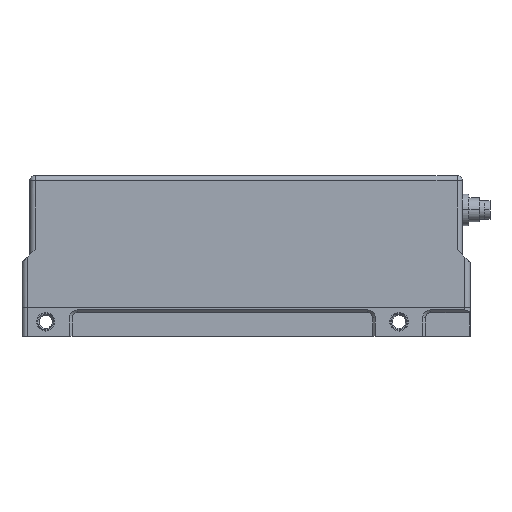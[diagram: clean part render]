
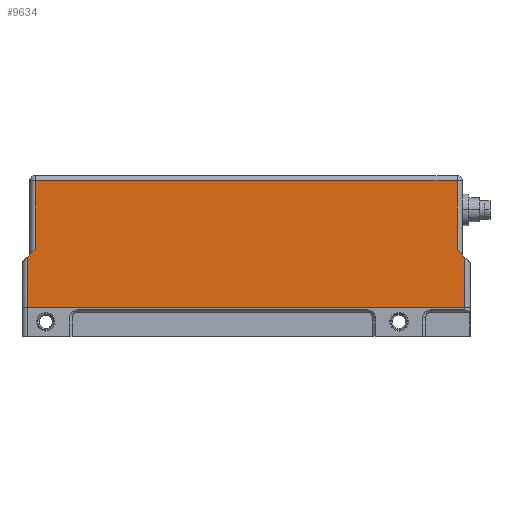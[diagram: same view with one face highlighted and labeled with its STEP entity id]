
A CAD part, top view. The second image highlights one B-rep face of the part: STEP entity #9634.
In plain terms, the highlighted planar face has unit normal (0, 0, 1).
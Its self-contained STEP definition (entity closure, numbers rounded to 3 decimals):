
#696 = LINE ( 'NONE', #10507, #698 ) ;
#698 = VECTOR ( 'NONE', #10513, 1000. ) ;
#829 = LINE ( 'NONE', #10685, #832 ) ;
#831 = LINE ( 'NONE', #10687, #833 ) ;
#832 = VECTOR ( 'NONE', #10686, 1000. ) ;
#833 = VECTOR ( 'NONE', #10688, 1000. ) ;
#840 = LINE ( 'NONE', #10716, #842 ) ;
#842 = VECTOR ( 'NONE', #10717, 1000. ) ;
#1562 = FACE_OUTER_BOUND ( 'NONE', #12535, .T. ) ;
#1940 = VERTEX_POINT ( 'NONE', #4072 ) ;
#1960 = VERTEX_POINT ( 'NONE', #4092 ) ;
#2030 = VERTEX_POINT ( 'NONE', #4162 ) ;
#2103 = VERTEX_POINT ( 'NONE', #4267 ) ;
#2160 = AXIS2_PLACEMENT_3D ( 'NONE', #5788, #5797, #5798 ) ;
#4072 = CARTESIAN_POINT ( 'NONE',  ( -2., 0., 0. ) ) ;
#4092 = CARTESIAN_POINT ( 'NONE',  ( -168., 19., 0. ) ) ;
#4162 = CARTESIAN_POINT ( 'NONE',  ( -165., 48., 0. ) ) ;
#4267 = CARTESIAN_POINT ( 'NONE',  ( -5., 48., 0. ) ) ;
#4756 = ORIENTED_EDGE ( 'NONE', *, *, #9145, .T. ) ;
#4758 = ORIENTED_EDGE ( 'NONE', *, *, #9135, .F. ) ;
#4759 = ORIENTED_EDGE ( 'NONE', *, *, #9136, .T. ) ;
#4760 = ORIENTED_EDGE ( 'NONE', *, *, #9874, .T. ) ;
#4762 = ORIENTED_EDGE ( 'NONE', *, *, #9873, .F. ) ;
#4763 = ORIENTED_EDGE ( 'NONE', *, *, #9058, .T. ) ;
#4779 = ORIENTED_EDGE ( 'NONE', *, *, #9872, .T. ) ;
#4791 = ORIENTED_EDGE ( 'NONE', *, *, #9871, .T. ) ;
#5103 = CARTESIAN_POINT ( 'NONE',  ( -165., 22., 0. ) ) ;
#5148 = CARTESIAN_POINT ( 'NONE',  ( -5., 22., 0. ) ) ;
#5234 = CARTESIAN_POINT ( 'NONE',  ( -2., 19., 0. ) ) ;
#5788 = CARTESIAN_POINT ( 'NONE',  ( 0., 50., 0. ) ) ;
#5795 = PLANE ( 'NONE',  #2160 ) ;
#5797 = DIRECTION ( 'NONE',  ( 0., 0., -1. ) ) ;
#5798 = DIRECTION ( 'NONE',  ( -1., 0., 0. ) ) ;
#6396 = VERTEX_POINT ( 'NONE', #5103 ) ;
#6441 = VERTEX_POINT ( 'NONE', #5148 ) ;
#6527 = VERTEX_POINT ( 'NONE', #5234 ) ;
#7346 = CARTESIAN_POINT ( 'NONE',  ( -5., 50., 0. ) ) ;
#7351 = CARTESIAN_POINT ( 'NONE',  ( -167., 48., 0. ) ) ;
#7352 = DIRECTION ( 'NONE',  ( -1., 0., 0. ) ) ;
#7353 = DIRECTION ( 'NONE',  ( 0., 1., 0. ) ) ;
#7354 = CARTESIAN_POINT ( 'NONE',  ( 0., 17., 0. ) ) ;
#7355 = DIRECTION ( 'NONE',  ( 0.707, -0.707, 0. ) ) ;
#7356 = CARTESIAN_POINT ( 'NONE',  ( -2., 50., 0. ) ) ;
#7357 = DIRECTION ( 'NONE',  ( 0., 1., 0. ) ) ;
#7462 = CARTESIAN_POINT ( 'NONE',  ( -168., 0., 0. ) ) ;
#9058 = EDGE_CURVE ( 'NONE', #11314, #1940, #696, .T. ) ;
#9135 = EDGE_CURVE ( 'NONE', #1960, #6396, #829, .T. ) ;
#9136 = EDGE_CURVE ( 'NONE', #1960, #11314, #831, .T. ) ;
#9145 = EDGE_CURVE ( 'NONE', #2030, #6396, #840, .T. ) ;
#9634 = ADVANCED_FACE ( 'NONE', ( #1562 ), #5795, .F. ) ;
#9871 = EDGE_CURVE ( 'NONE', #2103, #2030, #11053, .T. ) ;
#9872 = EDGE_CURVE ( 'NONE', #6441, #2103, #11061, .T. ) ;
#9873 = EDGE_CURVE ( 'NONE', #6441, #6527, #11063, .T. ) ;
#9874 = EDGE_CURVE ( 'NONE', #1940, #6527, #11065, .T. ) ;
#10507 = CARTESIAN_POINT ( 'NONE',  ( 0., 0., 0. ) ) ;
#10513 = DIRECTION ( 'NONE',  ( 1., 0., 0. ) ) ;
#10685 = CARTESIAN_POINT ( 'NONE',  ( -170., 17., 0. ) ) ;
#10686 = DIRECTION ( 'NONE',  ( 0.707, 0.707, 0. ) ) ;
#10687 = CARTESIAN_POINT ( 'NONE',  ( -168., 50., 0. ) ) ;
#10688 = DIRECTION ( 'NONE',  ( 0., -1., 0. ) ) ;
#10716 = CARTESIAN_POINT ( 'NONE',  ( -165., 50., 0. ) ) ;
#10717 = DIRECTION ( 'NONE',  ( 0., -1., 0. ) ) ;
#11053 = LINE ( 'NONE', #7351, #11058 ) ;
#11058 = VECTOR ( 'NONE', #7352, 1000. ) ;
#11061 = LINE ( 'NONE', #7346, #11064 ) ;
#11063 = LINE ( 'NONE', #7354, #11066 ) ;
#11064 = VECTOR ( 'NONE', #7353, 1000. ) ;
#11065 = LINE ( 'NONE', #7356, #11068 ) ;
#11066 = VECTOR ( 'NONE', #7355, 1000. ) ;
#11068 = VECTOR ( 'NONE', #7357, 1000. ) ;
#11314 = VERTEX_POINT ( 'NONE', #7462 ) ;
#12535 = EDGE_LOOP ( 'NONE', ( #4763, #4760, #4762, #4779, #4791, #4756, #4758, #4759 ) ) ;
